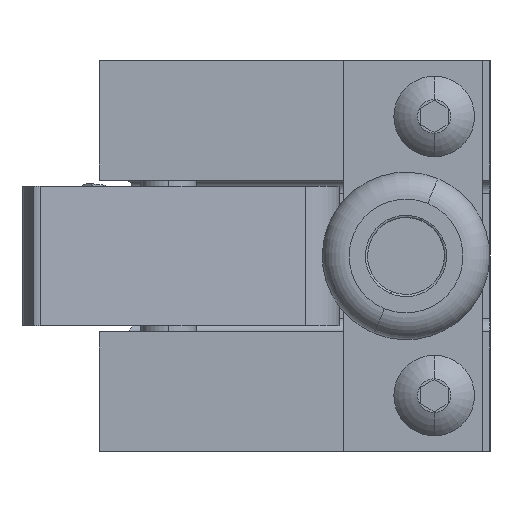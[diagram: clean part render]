
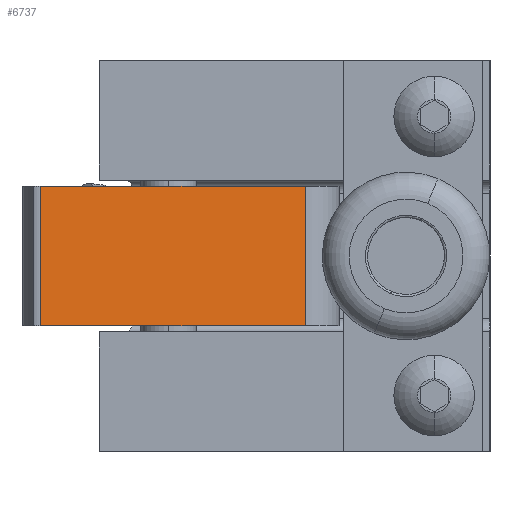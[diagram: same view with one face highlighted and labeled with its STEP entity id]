
A CAD part, left-side view. The second image highlights one B-rep face of the part: STEP entity #6737.
In plain terms, the highlighted planar face has unit normal (-0.988, -0.153, 0).
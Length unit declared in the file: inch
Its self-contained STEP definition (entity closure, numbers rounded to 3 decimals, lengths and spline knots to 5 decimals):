
#6313 = EDGE_CURVE ( 'NONE', #6315, #6544, #10041, .T. ) ;
#6315 = VERTEX_POINT ( 'NONE', #10036 ) ;
#6544 = VERTEX_POINT ( 'NONE', #10586 ) ;
#6737 = ADVANCED_FACE ( 'NONE', ( #11333 ), #11331, .T. ) ;
#6738 = EDGE_LOOP ( 'NONE', ( #6740, #6746, #6753, #6755 ) ) ;
#6740 = ORIENTED_EDGE ( 'NONE', *, *, #6742, .F. ) ;
#6742 = EDGE_CURVE ( 'NONE', #6743, #6544, #11376, .T. ) ;
#6743 = VERTEX_POINT ( 'NONE', #11370 ) ;
#6746 = ORIENTED_EDGE ( 'NONE', *, *, #6748, .F. ) ;
#6748 = EDGE_CURVE ( 'NONE', #6750, #6743, #11368, .T. ) ;
#6750 = VERTEX_POINT ( 'NONE', #11364 ) ;
#6753 = ORIENTED_EDGE ( 'NONE', *, *, #6754, .T. ) ;
#6754 = EDGE_CURVE ( 'NONE', #6750, #6315, #11405, .T. ) ;
#6755 = ORIENTED_EDGE ( 'NONE', *, *, #6313, .T. ) ;
#10036 = CARTESIAN_POINT ( 'NONE',  ( 7.56119, 5.81539, -0.625 ) ) ;
#10037 = DIRECTION ( 'NONE',  ( 0., 0., 1. ) ) ;
#10039 = VECTOR ( 'NONE', #10037, 39.37008 ) ;
#10040 = CARTESIAN_POINT ( 'NONE',  ( 7.56119, 5.81539, -0.625 ) ) ;
#10041 = LINE ( 'NONE', #10040, #10039 ) ;
#10586 = CARTESIAN_POINT ( 'NONE',  ( 7.56119, 5.81539, 0. ) ) ;
#11330 = AXIS2_PLACEMENT_3D ( 'NONE', #11332, #11375, #11374 ) ;
#11331 = PLANE ( 'NONE',  #11330 ) ;
#11332 = CARTESIAN_POINT ( 'NONE',  ( 7.56119, 5.81539, -0.625 ) ) ;
#11333 = FACE_OUTER_BOUND ( 'NONE', #6738, .T. ) ;
#11364 = CARTESIAN_POINT ( 'NONE',  ( 7.37697, 7.00117, -0.625 ) ) ;
#11365 = DIRECTION ( 'NONE',  ( 0., 0., 1. ) ) ;
#11366 = VECTOR ( 'NONE', #11365, 39.37008 ) ;
#11367 = CARTESIAN_POINT ( 'NONE',  ( 7.37697, 7.00117, -0.625 ) ) ;
#11368 = LINE ( 'NONE', #11367, #11366 ) ;
#11370 = CARTESIAN_POINT ( 'NONE',  ( 7.37697, 7.00117, 0. ) ) ;
#11371 = DIRECTION ( 'NONE',  ( 0.154, -0.988, 0. ) ) ;
#11372 = VECTOR ( 'NONE', #11371, 39.37008 ) ;
#11373 = CARTESIAN_POINT ( 'NONE',  ( 7.56119, 5.81539, 0. ) ) ;
#11374 = DIRECTION ( 'NONE',  ( 0.154, -0.988, 0. ) ) ;
#11375 = DIRECTION ( 'NONE',  ( -0.988, -0.154, 0. ) ) ;
#11376 = LINE ( 'NONE', #11373, #11372 ) ;
#11405 = LINE ( 'NONE', #11408, #11407 ) ;
#11407 = VECTOR ( 'NONE', #11428, 39.37008 ) ;
#11408 = CARTESIAN_POINT ( 'NONE',  ( 7.56119, 5.81539, -0.625 ) ) ;
#11428 = DIRECTION ( 'NONE',  ( 0.154, -0.988, 0. ) ) ;
